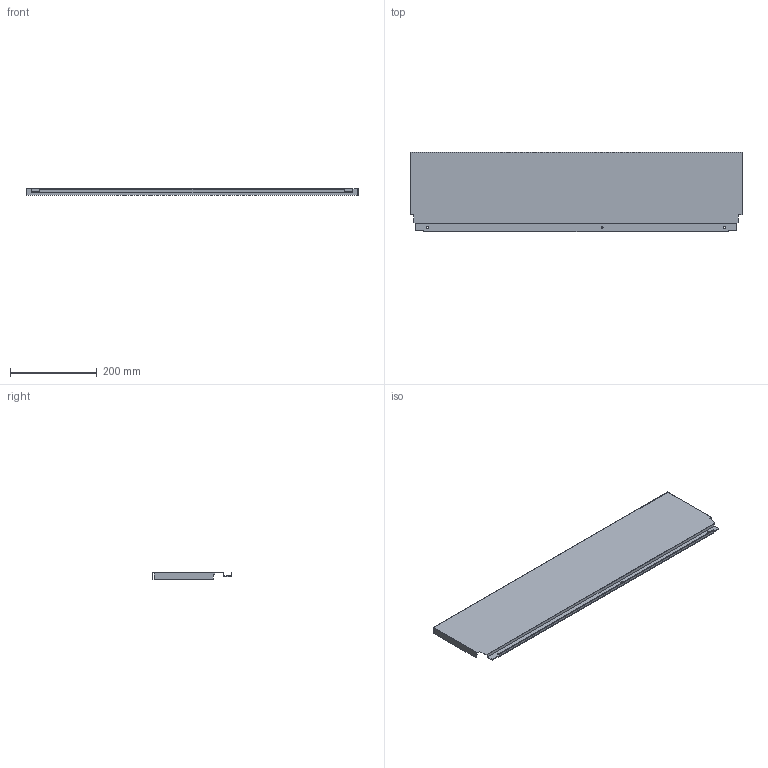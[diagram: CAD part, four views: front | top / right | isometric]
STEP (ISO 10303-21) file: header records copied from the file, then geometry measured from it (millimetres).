
FILE_DESCRIPTION (( 'STEP AP214' ), '1' );
FILE_NAME ('_DWD_XP Stahlrückwand_H182_KAB850_S17.step', '2010-07-08T12:57:48', ( 'grass' ), ( '' ), 'SwSTEP 2.0', 'SolidWorks 2010', '' );
FILE_SCHEMA (( 'AUTOMOTIVE_DESIGN' ));
Length unit declared in the file: millimetre
Products named in the file (1): _DWD_XP Stahlrückwand_H182_KAB850_S17
Bounding box: 765 x 182.49 x 16 mm (x, y, z)
Volume: 143614 mm3; surface area: 332237.9 mm2
Topology: 1 solids, 1 shells, 46 faces, 132 edges, 88 vertices
Faces by surface type: plane 40, cylinder 6
Entity records: 1534 total; most frequent: CARTESIAN_POINT 267, ORIENTED_EDGE 264, DIRECTION 238, EDGE_CURVE 132, VECTOR 120, LINE 120, VERTEX_POINT 88, AXIS2_PLACEMENT_3D 59
